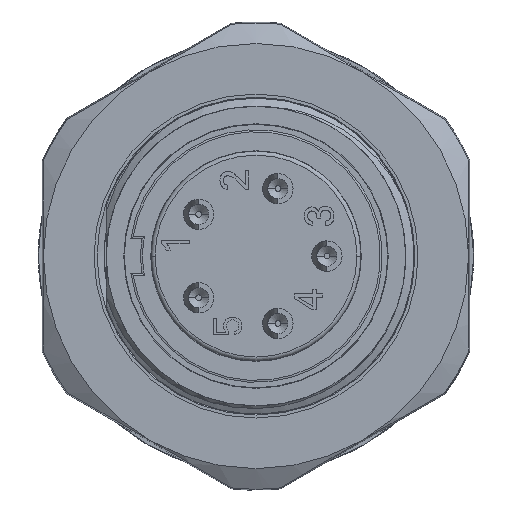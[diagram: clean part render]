
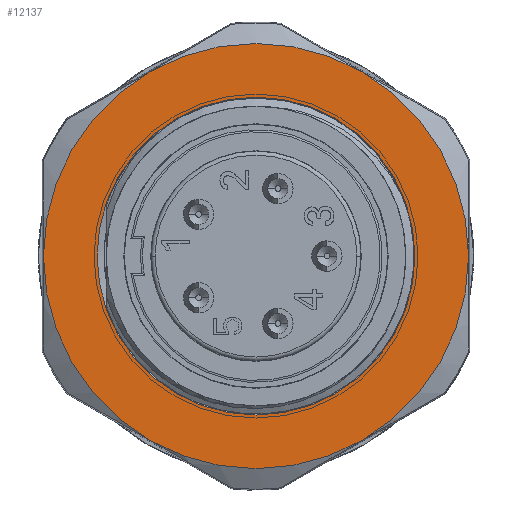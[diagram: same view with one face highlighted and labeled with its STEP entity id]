
A CAD part, left-side view. The second image highlights one B-rep face of the part: STEP entity #12137.
In plain terms, the highlighted planar face has unit normal (-1, 0, 0).
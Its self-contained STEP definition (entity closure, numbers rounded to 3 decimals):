
#2972=CARTESIAN_POINT('',(-8.94,0.,0.));
#2973=DIRECTION('',(1.,0.,0.));
#2974=DIRECTION('',(0.,0.,1.));
#2975=AXIS2_PLACEMENT_3D('',#2972,#2973,#2974);
#3014=CARTESIAN_POINT('',(-8.94,0.,0.));
#3015=DIRECTION('',(1.,0.,0.));
#3016=DIRECTION('',(0.,-0.5,-0.866));
#3017=AXIS2_PLACEMENT_3D('',#3014,#3015,#3016);
#3019=CARTESIAN_POINT('',(-8.94,0.,0.));
#3020=DIRECTION('',(1.,0.,0.));
#3021=DIRECTION('',(0.,0.,-1.));
#3022=AXIS2_PLACEMENT_3D('',#3019,#3020,#3021);
#3024=CARTESIAN_POINT('',(-8.94,0.,0.));
#3025=DIRECTION('',(1.,0.,0.));
#3026=DIRECTION('',(0.,0.5,-0.866));
#3027=AXIS2_PLACEMENT_3D('',#3024,#3025,#3026);
#3029=CARTESIAN_POINT('',(-8.94,0.,0.));
#3030=DIRECTION('',(1.,0.,0.));
#3031=DIRECTION('',(0.,1.,0.));
#3032=AXIS2_PLACEMENT_3D('',#3029,#3030,#3031);
#3034=CARTESIAN_POINT('',(-8.94,0.,0.));
#3035=DIRECTION('',(1.,0.,0.));
#3036=DIRECTION('',(0.,0.5,0.866));
#3037=AXIS2_PLACEMENT_3D('',#3034,#3035,#3036);
#3039=CARTESIAN_POINT('',(-8.94,0.,0.));
#3040=DIRECTION('',(1.,0.,0.));
#3041=DIRECTION('',(0.,-0.5,0.866));
#3042=AXIS2_PLACEMENT_3D('',#3039,#3040,#3041);
#3044=CARTESIAN_POINT('',(-8.94,0.,0.));
#3045=DIRECTION('',(1.,0.,0.));
#3046=DIRECTION('',(0.,-1.,0.));
#3047=AXIS2_PLACEMENT_3D('',#3044,#3045,#3046);
#3049=CARTESIAN_POINT('',(-8.94,0.,0.));
#3050=DIRECTION('',(-1.,0.,0.));
#3051=DIRECTION('',(0.,0.,1.));
#3052=AXIS2_PLACEMENT_3D('',#3049,#3050,#3051);
#7637=CARTESIAN_POINT('',(-8.94,5.25,-9.093));
#7638=CARTESIAN_POINT('',(-8.94,10.5,0.));
#7639=VERTEX_POINT('',#7637);
#7640=VERTEX_POINT('',#7638);
#7641=CARTESIAN_POINT('',(-8.94,5.25,9.093));
#7642=VERTEX_POINT('',#7641);
#7643=CARTESIAN_POINT('',(-8.94,-5.25,9.093));
#7644=CARTESIAN_POINT('',(-8.94,-10.5,0.));
#7645=VERTEX_POINT('',#7643);
#7646=VERTEX_POINT('',#7644);
#7647=CARTESIAN_POINT('',(-8.94,-5.25,-9.093));
#7648=VERTEX_POINT('',#7647);
#7649=CARTESIAN_POINT('',(-8.94,0.,7.85));
#7650=CARTESIAN_POINT('',(-8.94,0.,-7.85));
#7651=VERTEX_POINT('',#7649);
#7652=VERTEX_POINT('',#7650);
#7653=CARTESIAN_POINT('',(-8.94,0.,-10.5));
#7654=VERTEX_POINT('',#7653);
#12112=CARTESIAN_POINT('',(-8.94,0.,0.));
#12113=DIRECTION('',(1.,0.,0.));
#12114=DIRECTION('',(0.,0.,1.));
#12115=AXIS2_PLACEMENT_3D('',#12112,#12113,#12114);
#12116=PLANE('',#12115);
#12118=ORIENTED_EDGE('',*,*,#12117,.T.);
#12120=ORIENTED_EDGE('',*,*,#12119,.T.);
#12122=ORIENTED_EDGE('',*,*,#12121,.T.);
#12124=ORIENTED_EDGE('',*,*,#12123,.T.);
#12126=ORIENTED_EDGE('',*,*,#12125,.T.);
#12128=ORIENTED_EDGE('',*,*,#12127,.T.);
#12130=ORIENTED_EDGE('',*,*,#12129,.T.);
#12131=EDGE_LOOP('',(#12118,#12120,#12122,#12124,#12126,#12128,#12130));
#12132=FACE_OUTER_BOUND('',#12131,.F.);
#12133=ORIENTED_EDGE('',*,*,#12072,.F.);
#12134=ORIENTED_EDGE('',*,*,#12090,.T.);
#12135=EDGE_LOOP('',(#12133,#12134));
#12136=FACE_BOUND('',#12135,.F.);
#12137=ADVANCED_FACE('',(#12132,#12136),#12116,.F.);
#2976=CIRCLE('',#2975,7.85);
#3018=CIRCLE('',#3017,10.5);
#3023=CIRCLE('',#3022,10.5);
#3028=CIRCLE('',#3027,10.5);
#3033=CIRCLE('',#3032,10.5);
#3038=CIRCLE('',#3037,10.5);
#3043=CIRCLE('',#3042,10.5);
#3048=CIRCLE('',#3047,10.5);
#3053=CIRCLE('',#3052,7.85);
#12072=EDGE_CURVE('',#7651,#7652,#2976,.T.);
#12090=EDGE_CURVE('',#7651,#7652,#3053,.T.);
#12117=EDGE_CURVE('',#7648,#7654,#3018,.T.);
#12119=EDGE_CURVE('',#7654,#7639,#3023,.T.);
#12121=EDGE_CURVE('',#7639,#7640,#3028,.T.);
#12123=EDGE_CURVE('',#7640,#7642,#3033,.T.);
#12125=EDGE_CURVE('',#7642,#7645,#3038,.T.);
#12127=EDGE_CURVE('',#7645,#7646,#3043,.T.);
#12129=EDGE_CURVE('',#7646,#7648,#3048,.T.);
